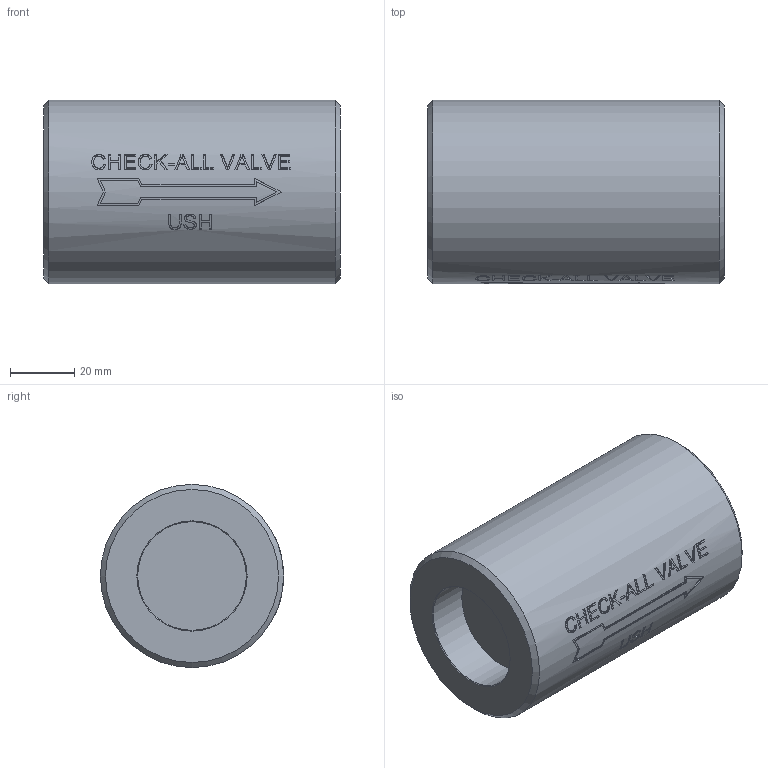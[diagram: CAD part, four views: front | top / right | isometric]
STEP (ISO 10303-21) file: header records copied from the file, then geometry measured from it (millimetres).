
FILE_DESCRIPTION( ( 'Unknown' ), '1' );
FILE_NAME( 'Y:/ENGR/3D Solid Edge Models/US/US-PRT/USH.stp', 'Unknown', ( 'Unknown' ), ( 'Unknown' ), 'PSStep 14.0', 'Unknown', ' ' );
FILE_SCHEMA( ( 'AUTOMOTIVE_DESIGN { 1 0 10303 214 1 1 1 1 }' ) );
Length unit declared in the file: inch
Products named in the file (1): 1
Bounding box: 92.53 x 57.15 x 57.15 mm (x, y, z)
Volume: 213685.9 mm3; surface area: 24260.9 mm2
Topology: 1 solids, 1 shells, 190 faces, 493 edges, 328 vertices
Faces by surface type: plane 111, bspline 51, cylinder 24, cone 4
Full cylindrical faces by diameter (mm): 33.909 x2, 57.15 x1
Entity records: 10306 total; most frequent: CARTESIAN_POINT 5234, ORIENTED_EDGE 968, EDGE_CURVE 484, B_SPLINE_CURVE_WITH_KNOTS 474, VERTEX_POINT 326, DIRECTION 300, EDGE_LOOP 220, FACE_OUTER_BOUND 193
